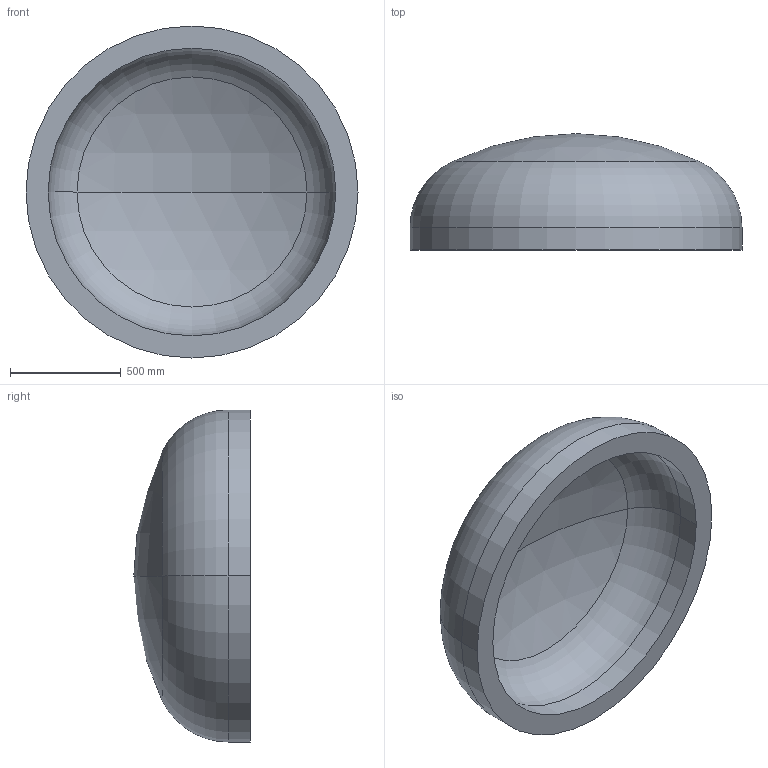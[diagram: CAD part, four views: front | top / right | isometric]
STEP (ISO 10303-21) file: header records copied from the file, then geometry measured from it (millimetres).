
FILE_DESCRIPTION (( 'STEP AP203' ), '1' );
FILE_NAME ('DIN 28013 Korbbogenform_-_Boden DIN 28013 - 1500 x 100 - I - s=100.step', '2016-07-01T10:58:03', ( '' ), ( '' ), 'SwSTEP 2.0', 'SolidWorks 2013', '' );
FILE_SCHEMA (( 'CONFIG_CONTROL_DESIGN' ));
Length unit declared in the file: millimetre
Products named in the file (1): DIN 28013 Korbbogenform_-_Boden DIN 28013 - 1500 x 100 - I - s=100
Bounding box: 1500 x 525.64 x 1500 mm (x, y, z)
Volume: 268688303.3 mm3; surface area: 5834531.8 mm2
Topology: 1 solids, 1 shells, 13 faces, 24 edges, 14 vertices
Faces by surface type: torus 4, cylinder 4, sphere 4, plane 1
Entity records: 407 total; most frequent: DIRECTION 72, CARTESIAN_POINT 52, ORIENTED_EDGE 48, AXIS2_PLACEMENT_3D 34, EDGE_CURVE 24, CIRCLE 20, EDGE_LOOP 14, VERTEX_POINT 14
